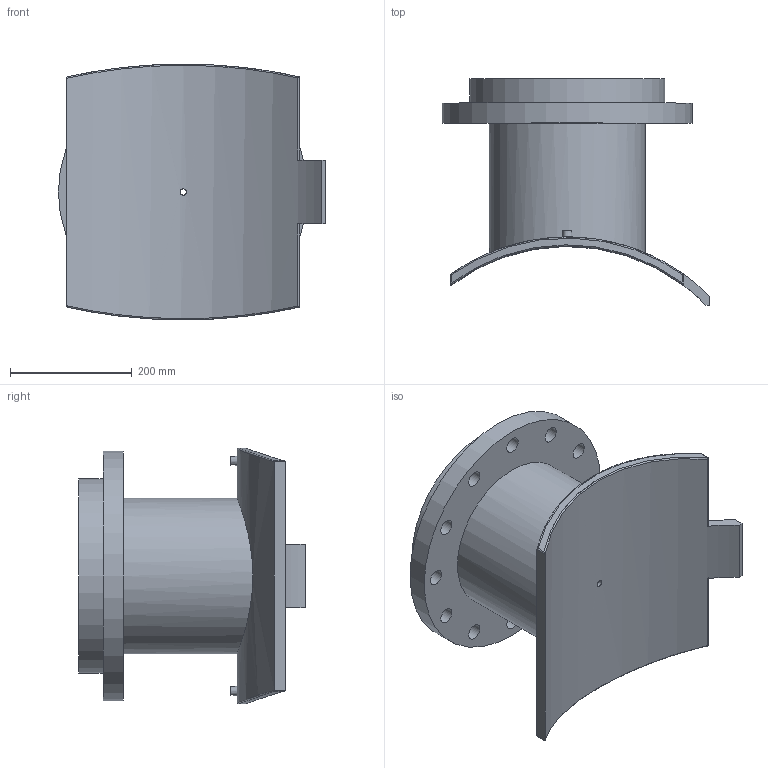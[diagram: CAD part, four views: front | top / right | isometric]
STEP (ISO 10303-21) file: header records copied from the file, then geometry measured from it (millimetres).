
FILE_DESCRIPTION(/* description */ ('PLASSON FLANGED BRANCH SADDLE 500-630X250'),/* implementation_level */ '2;1');
FILE_NAME(/* name */ 'C:\Dropbox\KIMPROJECTS-Inventor 2019\99-16-3568-Processing\ElectroFusion Fittings\495904_495903\stp\495903630250T.stp',/* time_stamp */ '2024-04-03T21:03:48+02:00',/* author */ ('KIM'),/* organization */ (''),/* preprocessor_version */ 'ST-DEVELOPER v17.2',/* originating_system */ 'Autodesk Inventor 2019',/* authorisation */ '');
FILE_SCHEMA (('AUTOMOTIVE_DESIGN { 1 0 10303 214 3 1 1 }'));
Length unit declared in the file: millimetre
Products named in the file (1): 495903630250T
Bounding box: 438.75 x 372.06 x 419.98 mm (x, y, z)
Volume: 11282782.5 mm3; surface area: 982430.7 mm2
Topology: 1 solids, 1 shells, 62 faces, 163 edges, 126 vertices
Faces by surface type: cylinder 35, plane 17, sphere 4, bspline 4, cone 2
Full cylindrical faces by diameter (mm): 4 x2, 10 x2, 10.4 x1, 16 x1, 26 x12, 204 x1, 256 x1, 320 x1, 410 x1
Entity records: 2595 total; most frequent: CARTESIAN_POINT 967, DIRECTION 325, ORIENTED_EDGE 298, EDGE_CURVE 149, AXIS2_PLACEMENT_3D 137, VERTEX_POINT 100, EDGE_LOOP 99, CIRCLE 78
